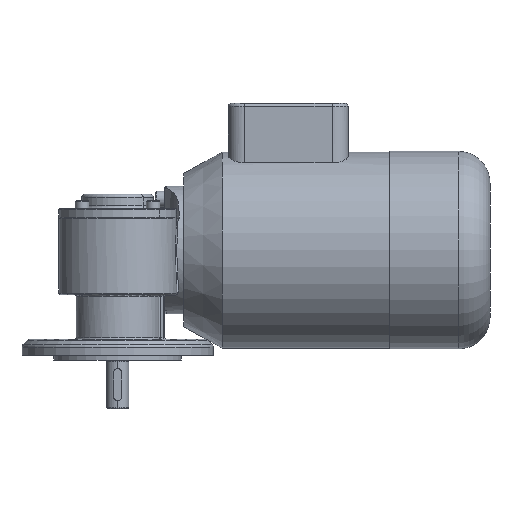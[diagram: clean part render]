
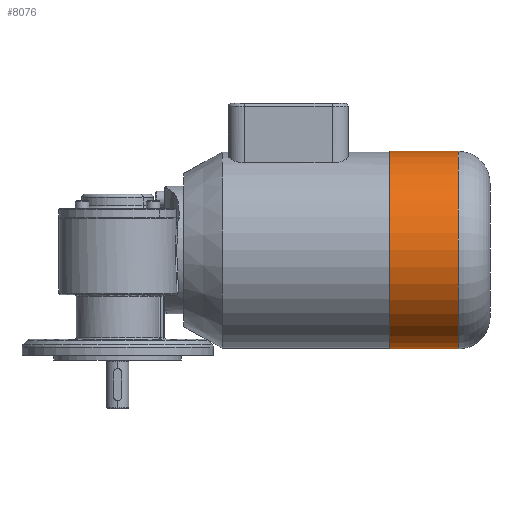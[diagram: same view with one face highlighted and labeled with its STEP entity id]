
A CAD part, front view. The second image highlights one B-rep face of the part: STEP entity #8076.
In plain terms, the highlighted cylindrical face has radius 62 mm (diameter 124 mm), a partial arc.
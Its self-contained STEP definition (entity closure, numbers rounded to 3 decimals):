
#71 = AXIS2_PLACEMENT_3D ( 'NONE', #4416, #7243, #2488 ) ;
#91 = CARTESIAN_POINT ( 'NONE',  ( 79.848, 42.407, 29.7 ) ) ;
#334 = EDGE_LOOP ( 'NONE', ( #4553, #3436, #2014, #3416 ) ) ;
#1091 = LINE ( 'NONE', #7922, #10354 ) ;
#1944 = CYLINDRICAL_SURFACE ( 'NONE', #71, 62. ) ;
#2014 = ORIENTED_EDGE ( 'NONE', *, *, #6470, .T. ) ;
#2182 = EDGE_CURVE ( 'NONE', #6110, #5702, #7353, .T. ) ;
#2293 = DIRECTION ( 'NONE',  ( 1., 0., 0. ) ) ;
#2320 = CARTESIAN_POINT ( 'NONE',  ( 79.848, 42.407, -32.3 ) ) ;
#2475 = CARTESIAN_POINT ( 'NONE',  ( 142.848, 42.407, -32.3 ) ) ;
#2488 = DIRECTION ( 'NONE',  ( 0., 0., -1. ) ) ;
#2869 = CARTESIAN_POINT ( 'NONE',  ( 122.848, 42.407, -32.3 ) ) ;
#2990 = DIRECTION ( 'NONE',  ( 1., 0., 0. ) ) ;
#3416 = ORIENTED_EDGE ( 'NONE', *, *, #11622, .T. ) ;
#3436 = ORIENTED_EDGE ( 'NONE', *, *, #2182, .T. ) ;
#3496 = VECTOR ( 'NONE', #2293, 1000. ) ;
#3731 = AXIS2_PLACEMENT_3D ( 'NONE', #91, #2990, #6845 ) ;
#4037 = DIRECTION ( 'NONE',  ( 1., 0., 0. ) ) ;
#4416 = CARTESIAN_POINT ( 'NONE',  ( 142.848, 42.407, 29.7 ) ) ;
#4553 = ORIENTED_EDGE ( 'NONE', *, *, #7973, .F. ) ;
#5702 = VERTEX_POINT ( 'NONE', #2320 ) ;
#6110 = VERTEX_POINT ( 'NONE', #6423 ) ;
#6423 = CARTESIAN_POINT ( 'NONE',  ( 79.848, 42.407, 91.7 ) ) ;
#6470 = EDGE_CURVE ( 'NONE', #5702, #8398, #10133, .T. ) ;
#6845 = DIRECTION ( 'NONE',  ( 0., 0., -1. ) ) ;
#7243 = DIRECTION ( 'NONE',  ( 1., 0., 0. ) ) ;
#7353 = CIRCLE ( 'NONE', #3731, 62. ) ;
#7922 = CARTESIAN_POINT ( 'NONE',  ( 142.848, 42.407, 91.7 ) ) ;
#7973 = EDGE_CURVE ( 'NONE', #6110, #8256, #1091, .T. ) ;
#8076 = ADVANCED_FACE ( 'NONE', ( #8796 ), #1944, .T. ) ;
#8256 = VERTEX_POINT ( 'NONE', #11879 ) ;
#8398 = VERTEX_POINT ( 'NONE', #2869 ) ;
#8796 = FACE_OUTER_BOUND ( 'NONE', #334, .T. ) ;
#9193 = DIRECTION ( 'NONE',  ( 0., 0., 1. ) ) ;
#9215 = CIRCLE ( 'NONE', #12459, 62. ) ;
#9246 = DIRECTION ( 'NONE',  ( -1., 0., 0. ) ) ;
#10133 = LINE ( 'NONE', #2475, #3496 ) ;
#10354 = VECTOR ( 'NONE', #4037, 1000. ) ;
#11622 = EDGE_CURVE ( 'NONE', #8398, #8256, #9215, .T. ) ;
#11879 = CARTESIAN_POINT ( 'NONE',  ( 122.848, 42.407, 91.7 ) ) ;
#11977 = CARTESIAN_POINT ( 'NONE',  ( 122.848, 42.407, 29.7 ) ) ;
#12459 = AXIS2_PLACEMENT_3D ( 'NONE', #11977, #9246, #9193 ) ;
